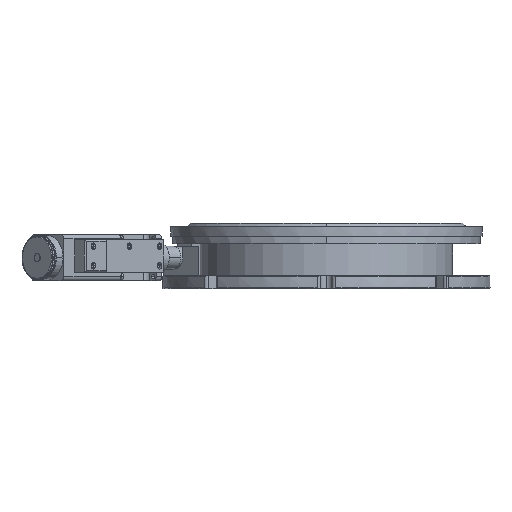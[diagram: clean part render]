
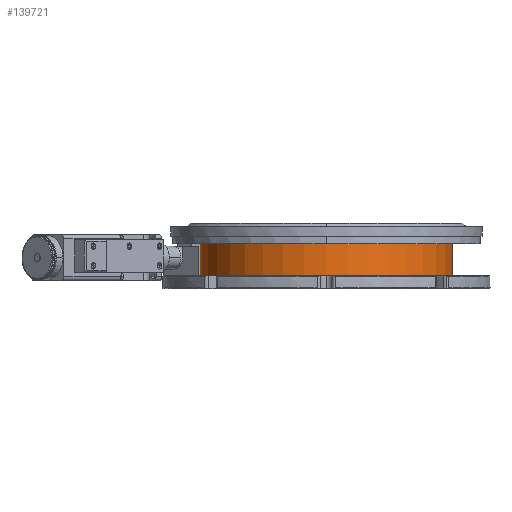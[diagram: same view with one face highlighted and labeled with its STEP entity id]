
A CAD part, left-side view. The second image highlights one B-rep face of the part: STEP entity #139721.
In plain terms, the highlighted cylindrical face has radius 77 mm (diameter 154 mm), a partial arc.
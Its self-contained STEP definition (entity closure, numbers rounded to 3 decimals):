
#4136 = VERTEX_POINT ( 'NONE', #40684 ) ;
#4165 = VERTEX_POINT ( 'NONE', #40846 ) ;
#4188 = EDGE_CURVE ( 'NONE', #4193, #4165, #40869, .T. ) ;
#4193 = VERTEX_POINT ( 'NONE', #40835 ) ;
#4206 = EDGE_CURVE ( 'NONE', #4249, #4136, #40897, .T. ) ;
#4249 = VERTEX_POINT ( 'NONE', #40933 ) ;
#40684 = CARTESIAN_POINT ( 'NONE',  ( 0., -77., 8. ) ) ;
#40835 = CARTESIAN_POINT ( 'NONE',  ( 0., 77., 27.5 ) ) ;
#40846 = CARTESIAN_POINT ( 'NONE',  ( 0., 77., 8. ) ) ;
#40867 = DIRECTION ( 'NONE',  ( 0., 0., -1. ) ) ;
#40868 = CARTESIAN_POINT ( 'NONE',  ( 0., 77., 34. ) ) ;
#40869 = LINE ( 'NONE', #40868, #40870 ) ;
#40870 = VECTOR ( 'NONE', #40867, 1000. ) ;
#40890 = DIRECTION ( 'NONE',  ( 0., 0., -1. ) ) ;
#40891 = VECTOR ( 'NONE', #40890, 1000. ) ;
#40892 = CARTESIAN_POINT ( 'NONE',  ( 0., -77., 34. ) ) ;
#40897 = LINE ( 'NONE', #40892, #40891 ) ;
#40933 = CARTESIAN_POINT ( 'NONE',  ( 0., -77., 27.5 ) ) ;
#92232 = DIRECTION ( 'NONE',  ( 0., 1., 0. ) ) ;
#92233 = DIRECTION ( 'NONE',  ( 0., 0., 1. ) ) ;
#92234 = CARTESIAN_POINT ( 'NONE',  ( 0., 0., 8. ) ) ;
#92235 = AXIS2_PLACEMENT_3D ( 'NONE', #92234, #92233, #92232 ) ;
#92236 = CIRCLE ( 'NONE', #92235, 77. ) ;
#92775 = CARTESIAN_POINT ( 'NONE',  ( 0., 0., 34. ) ) ;
#92776 = AXIS2_PLACEMENT_3D ( 'NONE', #92775, #92829, #92828 ) ;
#92777 = CYLINDRICAL_SURFACE ( 'NONE', #92776, 77. ) ;
#92778 = FACE_OUTER_BOUND ( 'NONE', #139722, .T. ) ;
#92824 = DIRECTION ( 'NONE',  ( 0., 1., 0. ) ) ;
#92825 = DIRECTION ( 'NONE',  ( 0., 0., 1. ) ) ;
#92826 = CARTESIAN_POINT ( 'NONE',  ( 0., 0., 27.5 ) ) ;
#92827 = AXIS2_PLACEMENT_3D ( 'NONE', #92826, #92825, #92824 ) ;
#92828 = DIRECTION ( 'NONE',  ( 0., 1., 0. ) ) ;
#92829 = DIRECTION ( 'NONE',  ( 0., 0., -1. ) ) ;
#92830 = CIRCLE ( 'NONE', #92827, 77. ) ;
#139148 = EDGE_CURVE ( 'NONE', #4165, #4136, #92236, .T. ) ;
#139721 = ADVANCED_FACE ( 'NONE', ( #92778 ), #92777, .T. ) ;
#139722 = EDGE_LOOP ( 'NONE', ( #139723, #139724, #139726, #139727 ) ) ;
#139723 = ORIENTED_EDGE ( 'NONE', *, *, #4206, .F. ) ;
#139724 = ORIENTED_EDGE ( 'NONE', *, *, #139725, .F. ) ;
#139725 = EDGE_CURVE ( 'NONE', #4193, #4249, #92830, .T. ) ;
#139726 = ORIENTED_EDGE ( 'NONE', *, *, #4188, .T. ) ;
#139727 = ORIENTED_EDGE ( 'NONE', *, *, #139148, .T. ) ;
